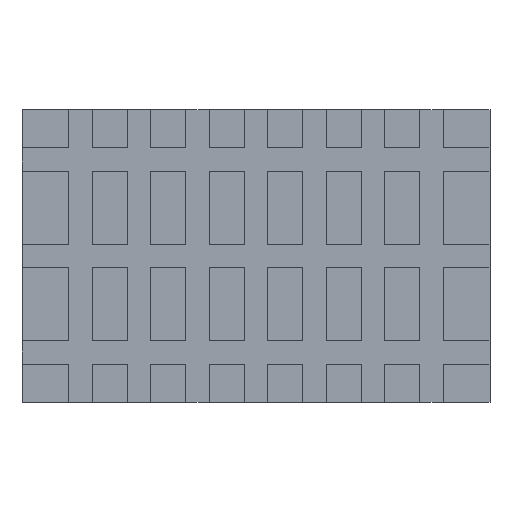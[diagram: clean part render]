
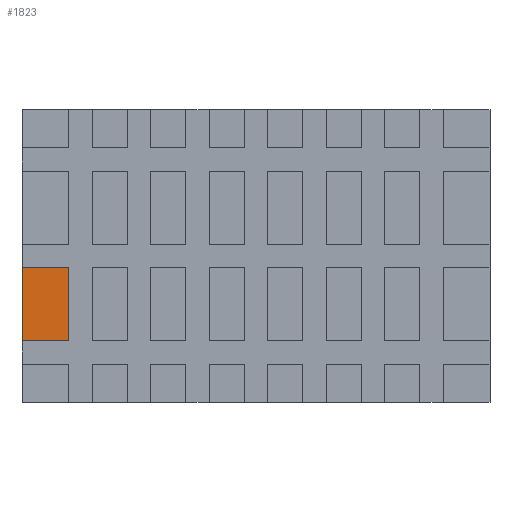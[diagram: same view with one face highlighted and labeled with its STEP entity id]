
A CAD part, top view. The second image highlights one B-rep face of the part: STEP entity #1823.
In plain terms, the highlighted planar face has unit normal (0, 0, 1).
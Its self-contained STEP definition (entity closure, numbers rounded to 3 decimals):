
#62 = CARTESIAN_POINT ( 'NONE',  ( -80., -4., 30. ) ) ;
#442 = ORIENTED_EDGE ( 'NONE', *, *, #10135, .T. ) ;
#706 = LINE ( 'NONE', #12805, #12417 ) ;
#736 = PLANE ( 'NONE',  #12589 ) ;
#891 = LINE ( 'NONE', #8832, #12026 ) ;
#1775 = DIRECTION ( 'NONE',  ( 0., 0., -1. ) ) ;
#1823 = ADVANCED_FACE ( 'NONE', ( #3797 ), #736, .F. ) ;
#3372 = CARTESIAN_POINT ( 'NONE',  ( -80., -29., 30. ) ) ;
#3422 = LINE ( 'NONE', #8164, #6032 ) ;
#3777 = CARTESIAN_POINT ( 'NONE',  ( -64., -29., 30. ) ) ;
#3797 = FACE_OUTER_BOUND ( 'NONE', #12559, .T. ) ;
#4039 = DIRECTION ( 'NONE',  ( 1., 0., 0. ) ) ;
#5821 = CARTESIAN_POINT ( 'NONE',  ( 0., 0., 30. ) ) ;
#5990 = LINE ( 'NONE', #62, #7824 ) ;
#5995 = EDGE_CURVE ( 'NONE', #12382, #12704, #706, .T. ) ;
#6032 = VECTOR ( 'NONE', #12137, 1000. ) ;
#6882 = ORIENTED_EDGE ( 'NONE', *, *, #5995, .F. ) ;
#7397 = EDGE_CURVE ( 'NONE', #8720, #12382, #5990, .T. ) ;
#7824 = VECTOR ( 'NONE', #4039, 1000. ) ;
#8164 = CARTESIAN_POINT ( 'NONE',  ( -80., -29., 30. ) ) ;
#8682 = EDGE_CURVE ( 'NONE', #8720, #9557, #891, .T. ) ;
#8720 = VERTEX_POINT ( 'NONE', #12540 ) ;
#8832 = CARTESIAN_POINT ( 'NONE',  ( -80., -50., 30. ) ) ;
#9557 = VERTEX_POINT ( 'NONE', #3372 ) ;
#9873 = CARTESIAN_POINT ( 'NONE',  ( -64., -4., 30. ) ) ;
#10135 = EDGE_CURVE ( 'NONE', #9557, #12704, #3422, .T. ) ;
#10456 = ORIENTED_EDGE ( 'NONE', *, *, #7397, .F. ) ;
#10610 = DIRECTION ( 'NONE',  ( 0., -1., 0. ) ) ;
#11613 = DIRECTION ( 'NONE',  ( -1., 0., 0. ) ) ;
#11746 = ORIENTED_EDGE ( 'NONE', *, *, #8682, .T. ) ;
#12026 = VECTOR ( 'NONE', #12733, 1000. ) ;
#12137 = DIRECTION ( 'NONE',  ( 1., 0., 0. ) ) ;
#12382 = VERTEX_POINT ( 'NONE', #9873 ) ;
#12417 = VECTOR ( 'NONE', #10610, 1000. ) ;
#12540 = CARTESIAN_POINT ( 'NONE',  ( -80., -4., 30. ) ) ;
#12559 = EDGE_LOOP ( 'NONE', ( #6882, #10456, #11746, #442 ) ) ;
#12589 = AXIS2_PLACEMENT_3D ( 'NONE', #5821, #1775, #11613 ) ;
#12704 = VERTEX_POINT ( 'NONE', #3777 ) ;
#12733 = DIRECTION ( 'NONE',  ( 0., -1., 0. ) ) ;
#12805 = CARTESIAN_POINT ( 'NONE',  ( -64., 50., 30. ) ) ;
